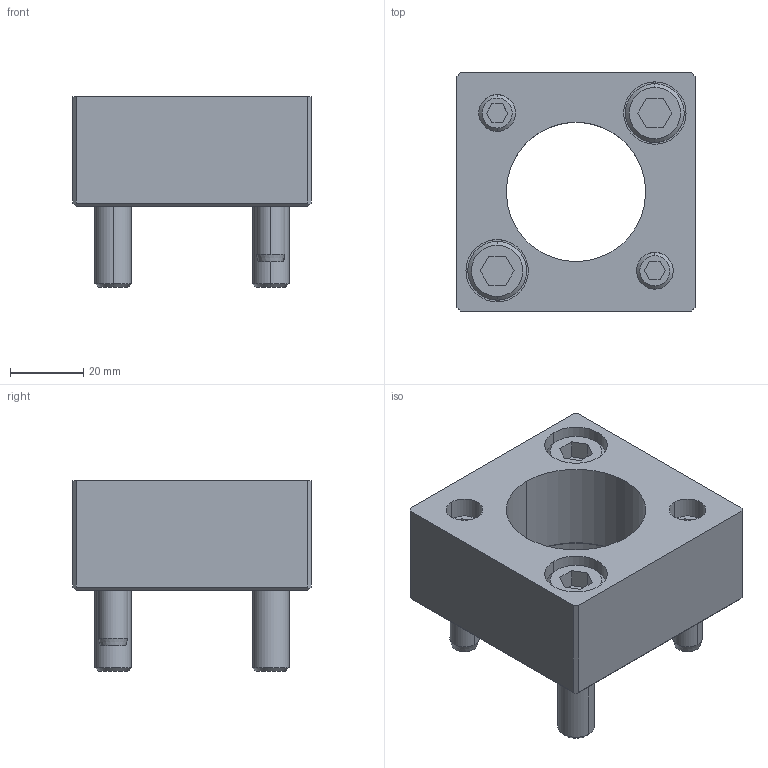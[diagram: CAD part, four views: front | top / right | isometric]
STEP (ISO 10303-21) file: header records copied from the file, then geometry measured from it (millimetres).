
FILE_DESCRIPTION(/* description */ (''),/* implementation_level */ '2;1');
FILE_NAME(/* name */ '3d_mpsr38_04610_r00.stp',/* time_stamp */ '2011-01-10T14:13:28+09:00',/* author */ ('MISUMI'),/* organization */ (''),/* preprocessor_version */ 'ST-DEVELOPER v11',/* originating_system */ 'UGS - NX 5.0',/* authorisation */ '');
FILE_SCHEMA (('CONFIG_CONTROL_DESIGN'));
Length unit declared in the file: millimetre
Products named in the file (1): 3d_mpsr38_04610_r00
Bounding box: 65 x 65 x 52 mm (x, y, z)
Volume: 92230 mm3; surface area: 28511.7 mm2
Topology: 7 solids, 7 shells, 139 faces, 306 edges, 196 vertices
Faces by surface type: plane 67, cylinder 46, cone 26
Entity records: 3950 total; most frequent: DIRECTION 698, CARTESIAN_POINT 684, ORIENTED_EDGE 612, EDGE_CURVE 306, AXIS2_PLACEMENT_3D 258, VERTEX_POINT 196, LINE 182, VECTOR 182
